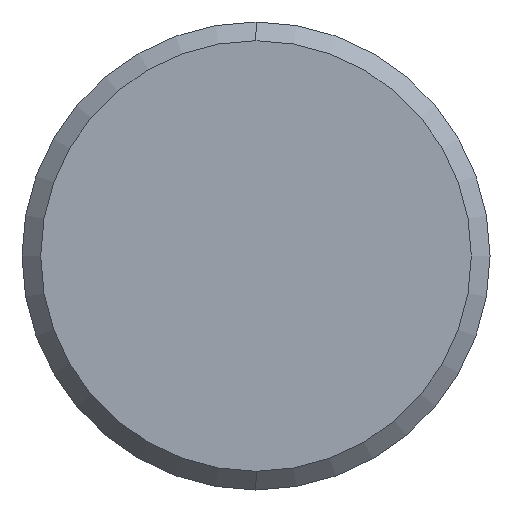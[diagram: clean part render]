
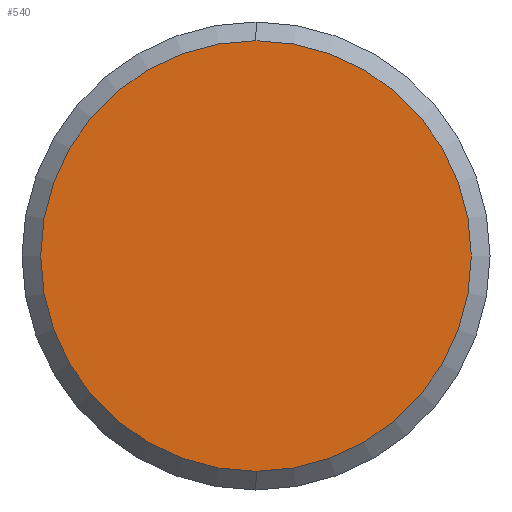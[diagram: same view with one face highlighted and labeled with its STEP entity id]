
A CAD part, left-side view. The second image highlights one B-rep face of the part: STEP entity #540.
In plain terms, the highlighted planar face has unit normal (-1, 0, 0).
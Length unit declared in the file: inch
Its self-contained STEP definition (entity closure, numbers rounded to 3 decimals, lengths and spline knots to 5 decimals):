
#8 = DIRECTION ( 'NONE',  ( 0., 0., -1. ) ) ;
#25 = ORIENTED_EDGE ( 'NONE', *, *, #682, .T. ) ;
#30 = CIRCLE ( 'NONE', #634, 0.1725 ) ;
#33 = DIRECTION ( 'NONE',  ( 1., 0., 0. ) ) ;
#39 = DIRECTION ( 'NONE',  ( 0., 0., -1. ) ) ;
#91 = DIRECTION ( 'NONE',  ( 0., 0., -1. ) ) ;
#132 = EDGE_CURVE ( 'NONE', #748, #620, #441, .T. ) ;
#150 = AXIS2_PLACEMENT_3D ( 'NONE', #555, #33, #91 ) ;
#222 = CARTESIAN_POINT ( 'NONE',  ( 0., 0., 0. ) ) ;
#252 = CARTESIAN_POINT ( 'NONE',  ( 0., 0., 0.1725 ) ) ;
#375 = AXIS2_PLACEMENT_3D ( 'NONE', #222, #504, #39 ) ;
#378 = EDGE_LOOP ( 'NONE', ( #472, #25 ) ) ;
#383 = DIRECTION ( 'NONE',  ( -1., 0., 0. ) ) ;
#441 = CIRCLE ( 'NONE', #375, 0.1725 ) ;
#472 = ORIENTED_EDGE ( 'NONE', *, *, #132, .T. ) ;
#504 = DIRECTION ( 'NONE',  ( -1., 0., 0. ) ) ;
#540 = ADVANCED_FACE ( 'NONE', ( #665 ), #724, .F. ) ;
#555 = CARTESIAN_POINT ( 'NONE',  ( 0., 0., 0. ) ) ;
#620 = VERTEX_POINT ( 'NONE', #252 ) ;
#634 = AXIS2_PLACEMENT_3D ( 'NONE', #705, #383, #8 ) ;
#647 = CARTESIAN_POINT ( 'NONE',  ( 0., 0., -0.1725 ) ) ;
#665 = FACE_OUTER_BOUND ( 'NONE', #378, .T. ) ;
#682 = EDGE_CURVE ( 'NONE', #620, #748, #30, .T. ) ;
#705 = CARTESIAN_POINT ( 'NONE',  ( 0., 0., 0. ) ) ;
#724 = PLANE ( 'NONE',  #150 ) ;
#748 = VERTEX_POINT ( 'NONE', #647 ) ;
